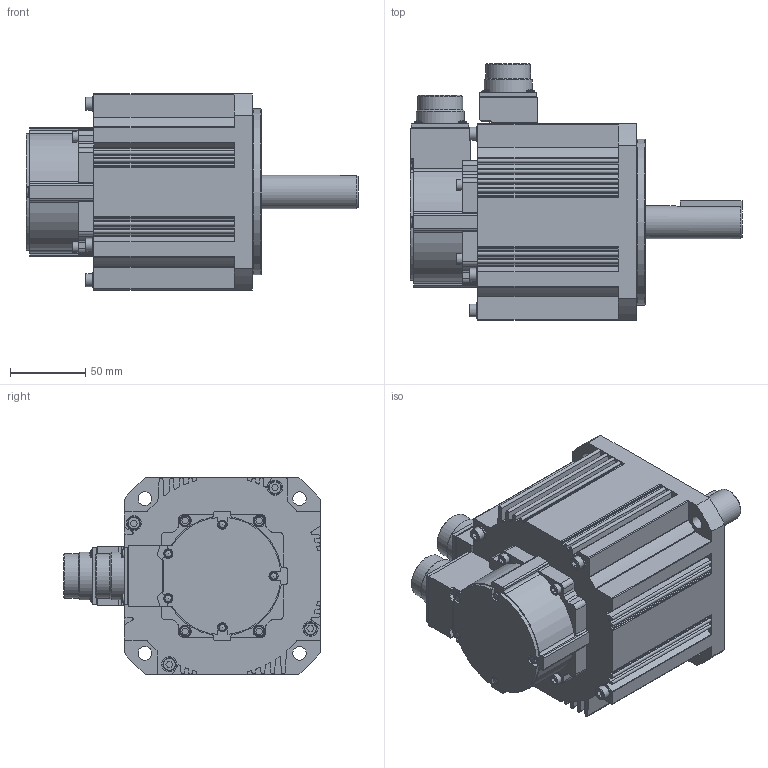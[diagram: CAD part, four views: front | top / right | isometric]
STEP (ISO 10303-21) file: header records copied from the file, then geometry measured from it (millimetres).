
FILE_DESCRIPTION( ( 'STEP AP214' ), '1' );
FILE_NAME( 'p:/temp/worker_2/temp/app_48_0201906101630172781671210e898ce_000000_00_00_000000/format_0/MHMF102L1G6 2JL10.stp', '2019-06-10T14:30:19', ( '' ), ( '' ), ' ', 'PARTsolutions', ' ' );
FILE_SCHEMA( ( 'AUTOMOTIVE_DESIGN { 1 0 10303 214 1 1 1 1 }' ) );
Length unit declared in the file: millimetre
Products named in the file (2): MHMF102L1G6 2JL10; _MHMF102L1G6 _body
Assembly tree (1 placements, depth 2):
  MHMF102L1G6 2JL10
    _MHMF102L1G6 _body
Bounding box: 220 x 170 x 130 mm (x, y, z)
Volume: 1941665.9 mm3; surface area: 138539 mm2
Topology: 1 solids, 1 shells, 573 faces, 1547 edges, 1010 vertices
Faces by surface type: plane 268, cylinder 250, cone 24, torus 18, sphere 13
Full cylindrical faces by diameter (mm): 2.459 x1, 5.6 x5, 7 x4, 8 x4, 8.5 x4, 9 x4, 10 x4, 22 x1, 29.75 x2, 31.75 x2, 34 x1, 38 x1, 45 x1, 102 x1, 110 x1
Entity records: 22245 total; most frequent: CARTESIAN_POINT 3282, DIRECTION 3091, ORIENTED_EDGE 2858, EDGE_CURVE 1429, AXIS2_PLACEMENT_3D 1122, VERTEX_POINT 991, LINE 847, VECTOR 847
